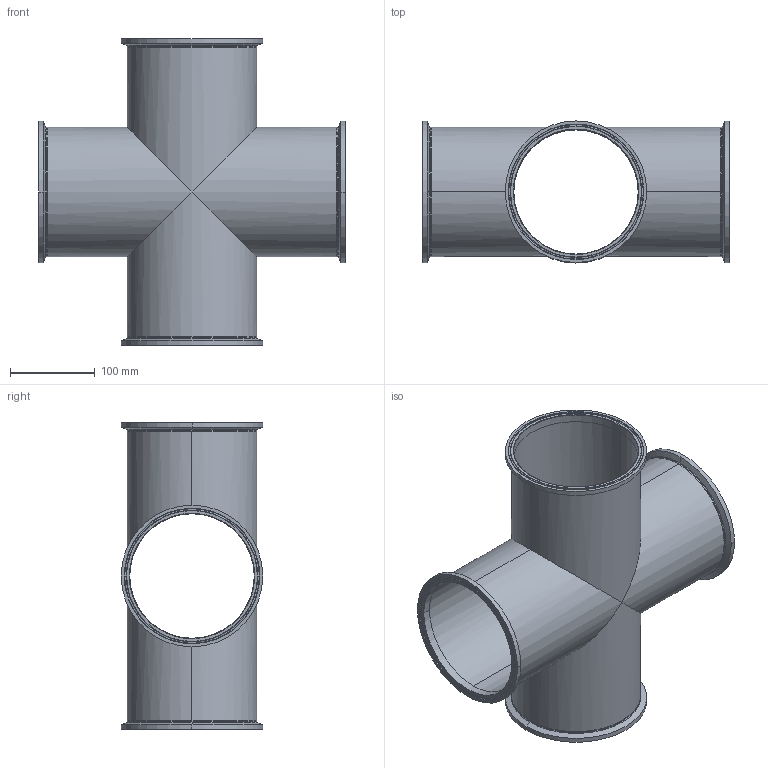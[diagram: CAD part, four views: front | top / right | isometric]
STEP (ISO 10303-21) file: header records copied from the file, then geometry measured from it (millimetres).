
FILE_DESCRIPTION (( 'STEP AP214' ), '1' );
FILE_NAME ('TEG96L6.0-...STEP', '2016-05-22T05:44:37', ( 'eran' ), ( '' ), 'SwSTEP 2.0', 'SolidWorks 2016', '' );
FILE_SCHEMA (( 'AUTOMOTIVE_DESIGN' ));
Length unit declared in the file: millimetre
Products named in the file (1): TEG96L6.0-..
Bounding box: 361.95 x 166.88 x 361.95 mm (x, y, z)
Volume: 791644.1 mm3; surface area: 543430.4 mm2
Topology: 5 solids, 5 shells, 120 faces, 304 edges, 196 vertices
Faces by surface type: cylinder 40, bspline 40, cone 24, plane 16
Entity records: 8106 total; most frequent: CARTESIAN_POINT 5181, DIRECTION 626, ORIENTED_EDGE 608, EDGE_CURVE 304, AXIS2_PLACEMENT_3D 281, CIRCLE 200, VERTEX_POINT 196, EDGE_LOOP 136
